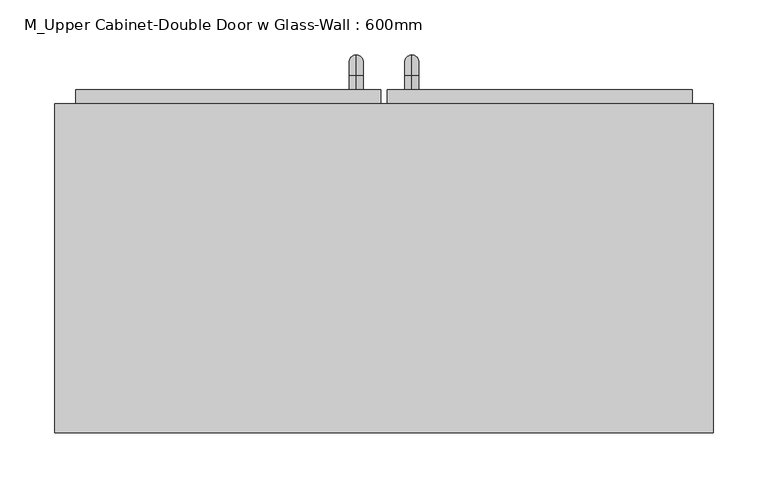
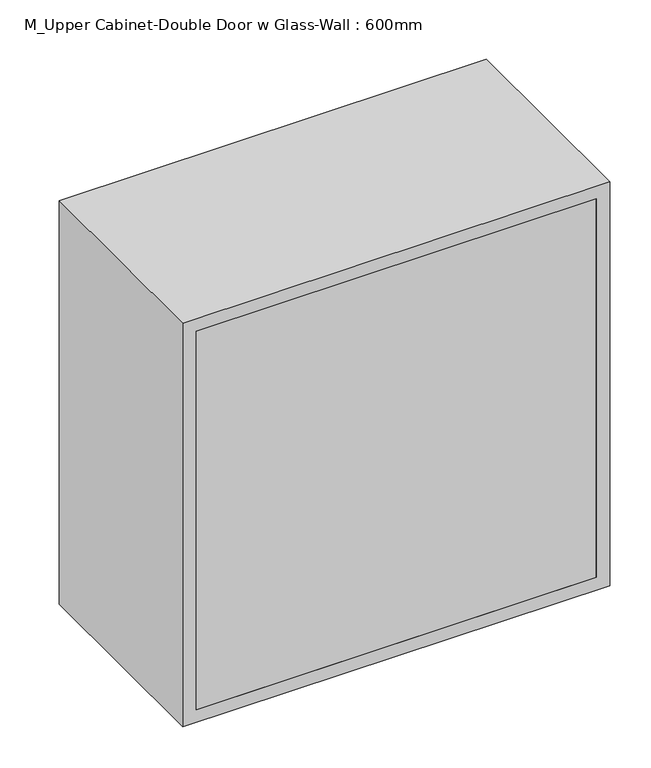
"""IFC4 building model written with IfcOpenShell, lengths in millimetres: furniture geometry, M_Upper Cabinet-Double Door w Glass-Wall : 600mm."""

from ifc_helpers import new_model, si_unit, point, frame, origin, place, context, project, spatial, polyline, circle_curve, ellipse_curve, trimmed, outline, extrude, source, transform, mapped, element, save
from ifc_brep_helpers import plane_surface, cylinder_surface, revolved_surface, advanced_brep


def m_upper_cabinet_double_door_w_glass_wall_600mm_8f8874be(model_context):
    return source(origin(), model_context, "Body", "SolidModel", [
        advanced_brep(
        [(55.1711628, 444.7, 1546.05), (55.1711628, 444.7, 1558.75), (55.1711628, 457.4, 1546.05), (55.1711628, 457.4, 1558.75), (55.1711628, 476.45, 1539.7), (55.1711628, 463.75, 1539.7), (55.1711628, 463.75, 1463.5), (55.1711628, 476.45, 1463.5), (55.1711628, 457.4, 1444.45), (55.1711628, 457.4, 1457.15), (55.1711628, 444.7, 1457.15), (55.1711628, 444.7, 1444.45)],
        [
            (0, 1, circle_curve(frame((55.1711628, 444.7, 1552.4), z_axis=(0.0, -1.0, 0.0), x_axis=(0.0, 0.0, -1.0)), 6.35)),
            (1, 0, circle_curve(frame((55.1711628, 444.7, 1552.4), z_axis=(0.0, -1.0, 0.0), x_axis=(0.0, 0.0, -1.0)), 6.35)),
            (0, 2),
            (2, 3, circle_curve(frame((55.1711628, 457.4, 1552.4), z_axis=(0.0, -1.0, 0.0), x_axis=(0.0, 0.0, -1.0)), 6.35)),
            (3, 1),
            (3, 2, circle_curve(frame((55.1711628, 457.4, 1552.4), z_axis=(0.0, -1.0, 0.0), x_axis=(0.0, 0.0, -1.0)), 6.35)),
            (4, 3, circle_curve(frame((55.1711628, 457.4, 1539.7), z_axis=(1.0, 0.0, 0.0), x_axis=(0.0, 0.0, 1.0)), 19.05)),
            (2, 5, circle_curve(frame((55.1711628, 457.4, 1539.7), z_axis=(-1.0, 0.0, 0.0), x_axis=(0.0, 0.0, 1.0)), 6.35)),
            (5, 4, circle_curve(frame((55.1711628, 470.1, 1539.7), z_axis=(0.0, 0.0, 1.0), x_axis=(0.0, -1.0, 0.0)), 6.35)),
            (4, 5, circle_curve(frame((55.1711628, 470.1, 1539.7), z_axis=(0.0, 0.0, 1.0), x_axis=(0.0, -1.0, 0.0)), 6.35)),
            (5, 6),
            (6, 7, circle_curve(frame((55.1711628, 470.1, 1463.5), z_axis=(0.0, 0.0, 1.0), x_axis=(0.0, -1.0, 0.0)), 6.35)),
            (7, 4),
            (7, 6, circle_curve(frame((55.1711628, 470.1, 1463.5), z_axis=(0.0, 0.0, 1.0), x_axis=(0.0, -1.0, 0.0)), 6.35)),
            (8, 7, circle_curve(frame((55.1711628, 457.4, 1463.5), z_axis=(1.0, 0.0, 0.0), x_axis=(0.0, 1.0, 0.0)), 19.05)),
            (6, 9, circle_curve(frame((55.1711628, 457.4, 1463.5), z_axis=(-1.0, 0.0, 0.0), x_axis=(0.0, 1.0, 0.0)), 6.35)),
            (9, 8, circle_curve(frame((55.1711628, 457.4, 1450.8), z_axis=(0.0, 1.0, 0.0), x_axis=(0.0, 0.0, 1.0)), 6.35)),
            (8, 9, circle_curve(frame((55.1711628, 457.4, 1450.8), z_axis=(0.0, 1.0, 0.0), x_axis=(0.0, 0.0, 1.0)), 6.35)),
            (10, 11, circle_curve(frame((55.1711628, 444.7, 1450.8), z_axis=(0.0, -1.0, 0.0), x_axis=(0.0, 0.0, 1.0)), 6.35)),
            (11, 10, circle_curve(frame((55.1711628, 444.7, 1450.8), z_axis=(0.0, -1.0, 0.0), x_axis=(0.0, 0.0, 1.0)), 6.35)),
            (9, 10),
            (11, 8),
        ],
        [
            plane_surface(frame((48.8211628, 444.7, 1552.4), z_axis=(0.0, -1.0, 0.0), x_axis=(0.0, 0.0, 1.0))),
            cylinder_surface(frame((55.1711628, 444.7, 1552.4), z_axis=(0.0, -1.0, 0.0), x_axis=(0.0, 0.0, -1.0)), 6.35),
            revolved_surface(trimmed(ellipse_curve(frame((55.1711628, 457.4, 1552.4), z_axis=(0.0, -1.0, 0.0), x_axis=(0.0, 0.0, -1.0)), 6.35, 6.35), [point((55.1711628, 457.4, 1546.05))], [point((55.1711628, 457.4, 1558.75))], True, "CARTESIAN"), (55.1711628, 457.4, 1539.7), (-1.0, 0.0, 0.0)),
            revolved_surface(trimmed(ellipse_curve(frame((55.1711628, 457.4, 1552.4), z_axis=(0.0, -1.0, 0.0), x_axis=(0.0, 0.0, -1.0)), 6.35, 6.35), [point((55.1711628, 457.4, 1558.75))], [point((55.1711628, 457.4, 1546.05))], True, "CARTESIAN"), (55.1711628, 457.4, 1539.7), (-1.0, 0.0, 0.0)),
            cylinder_surface(frame((55.1711628, 470.1, 1539.7), z_axis=(0.0, 0.0, 1.0), x_axis=(0.0, -1.0, 0.0)), 6.35),
            revolved_surface(trimmed(ellipse_curve(frame((55.1711628, 470.1, 1463.5), z_axis=(0.0, 0.0, 1.0), x_axis=(0.0, -1.0, 0.0)), 6.35, 6.35), [point((55.1711628, 463.75, 1463.5))], [point((55.1711628, 476.45, 1463.5))], True, "CARTESIAN"), (55.1711628, 457.4, 1463.5), (-1.0, 0.0, 0.0)),
            revolved_surface(trimmed(ellipse_curve(frame((55.1711628, 470.1, 1463.5), z_axis=(0.0, 0.0, 1.0), x_axis=(0.0, -1.0, 0.0)), 6.35, 6.35), [point((55.1711628, 476.45, 1463.5))], [point((55.1711628, 463.75, 1463.5))], True, "CARTESIAN"), (55.1711628, 457.4, 1463.5), (-1.0, 0.0, 0.0)),
            plane_surface(frame((48.8211628, 444.7, 1450.8), z_axis=(0.0, -1.0, 0.0), x_axis=(0.0, 0.0, -1.0))),
            cylinder_surface(frame((55.1711628, 457.4, 1450.8), z_axis=(0.0, 1.0, 0.0), x_axis=(0.0, 0.0, 1.0)), 6.35),
        ],
        [
            (0, [[1, 2]]),
            (1, [[-1, 3, 4, 5]]),
            (1, [[-2, -5, 6, -3]]),
            (2, [[7, -4, 8, 9]]),
            (3, [[-8, -6, -7, 10]]),
            (4, [[-9, 11, 12, 13]]),
            (4, [[-10, -13, 14, -11]]),
            (5, [[15, -12, 16, 17]]),
            (6, [[-16, -14, -15, 18]]),
            (7, [[19, 20]]),
            (8, [[-17, 21, -20, 22]]),
            (8, [[-18, -22, -19, -21]]),
        ],
    ),
        advanced_brep(
        [(4.3711628, 444.7, 1546.05), (4.3711628, 444.7, 1558.75), (4.3711628, 457.4, 1546.05), (4.3711628, 457.4, 1558.75), (4.3711628, 476.45, 1539.7), (4.3711628, 463.75, 1539.7), (4.3711628, 463.75, 1463.5), (4.3711628, 476.45, 1463.5), (4.3711628, 457.4, 1444.45), (4.3711628, 457.4, 1457.15), (4.3711628, 444.7, 1457.15), (4.3711628, 444.7, 1444.45)],
        [
            (0, 1, circle_curve(frame((4.3711628, 444.7, 1552.4), z_axis=(0.0, -1.0, 0.0), x_axis=(0.0, 0.0, 1.0)), 6.35)),
            (1, 0, circle_curve(frame((4.3711628, 444.7, 1552.4), z_axis=(0.0, -1.0, 0.0), x_axis=(0.0, 0.0, 1.0)), 6.35)),
            (0, 2),
            (2, 3, circle_curve(frame((4.3711628, 457.4, 1552.4), z_axis=(0.0, -1.0, 0.0), x_axis=(0.0, 0.0, 1.0)), 6.35)),
            (3, 1),
            (3, 2, circle_curve(frame((4.3711628, 457.4, 1552.4), z_axis=(0.0, -1.0, 0.0), x_axis=(0.0, 0.0, 1.0)), 6.35)),
            (4, 3, circle_curve(frame((4.3711628, 457.4, 1539.7), z_axis=(1.0, 0.0, 0.0), x_axis=(0.0, 0.0, 1.0)), 19.05)),
            (2, 5, circle_curve(frame((4.3711628, 457.4, 1539.7), z_axis=(-1.0, 0.0, 0.0), x_axis=(0.0, 0.0, 1.0)), 6.35)),
            (5, 4, circle_curve(frame((4.3711628, 470.1, 1539.7), z_axis=(0.0, 0.0, 1.0), x_axis=(0.0, 1.0, 0.0)), 6.35)),
            (4, 5, circle_curve(frame((4.3711628, 470.1, 1539.7), z_axis=(0.0, 0.0, 1.0), x_axis=(0.0, 1.0, 0.0)), 6.35)),
            (5, 6),
            (6, 7, circle_curve(frame((4.3711628, 470.1, 1463.5), z_axis=(0.0, 0.0, 1.0), x_axis=(0.0, 1.0, 0.0)), 6.35)),
            (7, 4),
            (7, 6, circle_curve(frame((4.3711628, 470.1, 1463.5), z_axis=(0.0, 0.0, 1.0), x_axis=(0.0, 1.0, 0.0)), 6.35)),
            (8, 7, circle_curve(frame((4.3711628, 457.4, 1463.5), z_axis=(1.0, 0.0, 0.0), x_axis=(0.0, 1.0, 0.0)), 19.05)),
            (6, 9, circle_curve(frame((4.3711628, 457.4, 1463.5), z_axis=(-1.0, 0.0, 0.0), x_axis=(0.0, 1.0, 0.0)), 6.35)),
            (9, 8, circle_curve(frame((4.3711628, 457.4, 1450.8), z_axis=(0.0, 1.0, 0.0), x_axis=(0.0, 0.0, -1.0)), 6.35)),
            (8, 9, circle_curve(frame((4.3711628, 457.4, 1450.8), z_axis=(0.0, 1.0, 0.0), x_axis=(0.0, 0.0, -1.0)), 6.35)),
            (10, 11, circle_curve(frame((4.3711628, 444.7, 1450.8), z_axis=(0.0, -1.0, 0.0), x_axis=(0.0, 0.0, -1.0)), 6.35)),
            (11, 10, circle_curve(frame((4.3711628, 444.7, 1450.8), z_axis=(0.0, -1.0, 0.0), x_axis=(0.0, 0.0, -1.0)), 6.35)),
            (9, 10),
            (11, 8),
        ],
        [
            plane_surface(frame((-1.9788372, 444.7, 1552.4), z_axis=(0.0, -1.0, 0.0), x_axis=(0.0, 0.0, 1.0))),
            cylinder_surface(frame((4.3711628, 444.7, 1552.4), z_axis=(0.0, -1.0, 0.0), x_axis=(0.0, 0.0, 1.0)), 6.35),
            revolved_surface(trimmed(ellipse_curve(frame((4.3711628, 457.4, 1552.4), z_axis=(0.0, -1.0, 0.0), x_axis=(0.0, 0.0, 1.0)), 6.35, 6.35), [point((4.3711628, 457.4, 1546.05))], [point((4.3711628, 457.4, 1558.75))], True, "CARTESIAN"), (4.3711628, 457.4, 1539.7), (-1.0, 0.0, 0.0)),
            revolved_surface(trimmed(ellipse_curve(frame((4.3711628, 457.4, 1552.4), z_axis=(0.0, -1.0, 0.0), x_axis=(0.0, 0.0, 1.0)), 6.35, 6.35), [point((4.3711628, 457.4, 1558.75))], [point((4.3711628, 457.4, 1546.05))], True, "CARTESIAN"), (4.3711628, 457.4, 1539.7), (-1.0, 0.0, 0.0)),
            cylinder_surface(frame((4.3711628, 470.1, 1539.7), z_axis=(0.0, 0.0, 1.0), x_axis=(0.0, 1.0, 0.0)), 6.35),
            revolved_surface(trimmed(ellipse_curve(frame((4.3711628, 470.1, 1463.5), z_axis=(0.0, 0.0, 1.0), x_axis=(0.0, 1.0, 0.0)), 6.35, 6.35), [point((4.3711628, 463.75, 1463.5))], [point((4.3711628, 476.45, 1463.5))], True, "CARTESIAN"), (4.3711628, 457.4, 1463.5), (-1.0, 0.0, 0.0)),
            revolved_surface(trimmed(ellipse_curve(frame((4.3711628, 470.1, 1463.5), z_axis=(0.0, 0.0, 1.0), x_axis=(0.0, 1.0, 0.0)), 6.35, 6.35), [point((4.3711628, 476.45, 1463.5))], [point((4.3711628, 463.75, 1463.5))], True, "CARTESIAN"), (4.3711628, 457.4, 1463.5), (-1.0, 0.0, 0.0)),
            plane_surface(frame((-1.9788372, 444.7, 1450.8), z_axis=(0.0, -1.0, 0.0), x_axis=(0.0, 0.0, -1.0))),
            cylinder_surface(frame((4.3711628, 457.4, 1450.8), z_axis=(0.0, 1.0, 0.0), x_axis=(0.0, 0.0, -1.0)), 6.35),
        ],
        [
            (0, [[1, 2]]),
            (1, [[-1, 3, 4, 5]]),
            (1, [[-2, -5, 6, -3]]),
            (2, [[7, -4, 8, 9]]),
            (3, [[-8, -6, -7, 10]]),
            (4, [[-9, 11, 12, 13]]),
            (4, [[-10, -13, 14, -11]]),
            (5, [[15, -12, 16, 17]]),
            (6, [[-16, -14, -15, 18]]),
            (7, [[19, 20]]),
            (8, [[-17, 21, -20, 22]]),
            (8, [[-18, -22, -19, -21]]),
        ],
    ),
        extrude(outline(polyline([(64.6961628, 425.65), (278.9711628, 425.65), (278.9711628, 419.3), (64.6961628, 419.3), (64.6961628, 425.65)])), frame((0.0, 0.0, 1450.8), z_axis=(0.0, 0.0, 1.0), x_axis=(1.0, 0.0, 0.0)), (0.0, 0.0, 1.0), 498.4),
        extrude(outline(polyline([(-219.4288372, 425.65), (-5.1538372, 425.65), (-5.1538372, 419.3), (-219.4288372, 419.3), (-219.4288372, 425.65)])), frame((0.0, 0.0, 1450.8), z_axis=(0.0, 0.0, 1.0), x_axis=(1.0, 0.0, 0.0)), (0.0, 0.0, 1.0), 498.4),
        extrude(outline(polyline([(1980.95, 32.9461628), (1419.05, 32.9461628), (1419.05, 310.7211628), (1980.95, 310.7211628), (1980.95, 32.9461628)]), holes=[polyline([(1450.8, 64.6961628), (1949.2, 64.6961628), (1949.2, 278.9711628), (1450.8, 278.9711628), (1450.8, 64.6961628)])]), frame((0.0, 412.95, 0.0), z_axis=(0.0, 1.0, 0.0), x_axis=(0.0, 0.0, 1.0)), (0.0, 0.0, 1.0), 31.75),
        extrude(outline(polyline([(1419.05, -251.1788372), (1419.05, 26.5961628), (1980.95, 26.5961628), (1980.95, -251.1788372), (1419.05, -251.1788372)]), holes=[polyline([(1949.2, -5.1538372), (1450.8, -5.1538372), (1450.8, -219.4288372), (1949.2, -219.4288372), (1949.2, -5.1538372)])]), frame((0.0, 412.95, 0.0), z_axis=(0.0, 1.0, 0.0), x_axis=(0.0, 0.0, 1.0)), (0.0, 0.0, 1.0), 31.75),
        extrude(outline(polyline([(310.7211628, 132.0), (-251.1788372, 132.0), (-251.1788372, 151.05), (310.7211628, 151.05), (310.7211628, 132.0)])), frame((0.0, 0.0, 1419.05), z_axis=(0.0, 0.0, 1.0), x_axis=(1.0, 0.0, 0.0)), (0.0, 0.0, 1.0), 561.9),
        extrude(outline(polyline([(2000.0, -270.2288372), (1400.0, -270.2288372), (1400.0, 329.7711628), (2000.0, 329.7711628), (2000.0, -270.2288372)]), holes=[polyline([(1980.95, -251.1788372), (1980.95, 310.7211628), (1419.05, 310.7211628), (1419.05, -251.1788372), (1980.95, -251.1788372)])]), frame((0.0, 132.0, 0.0), z_axis=(0.0, 1.0, 0.0), x_axis=(0.0, 0.0, 1.0)), (0.0, 0.0, 1.0), 300.0),
    ])


if __name__ == "__main__":
    model = new_model("IFC4")
    model_context = context("Model", 3, world=origin())
    ifc_project = project(units=[si_unit("LENGTHUNIT", "METRE", prefix="MILLI")], contexts=[model_context])
    site = spatial("IfcSite", under=ifc_project)
    building = spatial("IfcBuilding", under=site)
    placement = place(None, origin())
    m_upper_cabinet_double_door_w_glass_wall_600mm_shape = m_upper_cabinet_double_door_w_glass_wall_600mm_8f8874be(model_context)
    element("IfcFurniture", 1, ObjectType="M_Upper Cabinet-Double Door w Glass-Wall : 600mm", at=placement, inside=building, context=model_context, shape_type="MappedRepresentation", body=[
        mapped(m_upper_cabinet_double_door_w_glass_wall_600mm_shape, transform((0.0, 0.0, 0.0), x_axis=(1.0, 0.0, 0.0), y_axis=(0.0, 1.0, 0.0), z_axis=(0.0, 0.0, 1.0))),
    ])
    save(model, "model.ifc")
